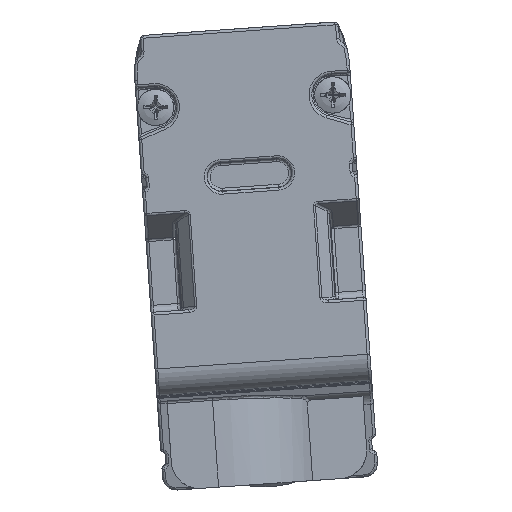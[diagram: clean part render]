
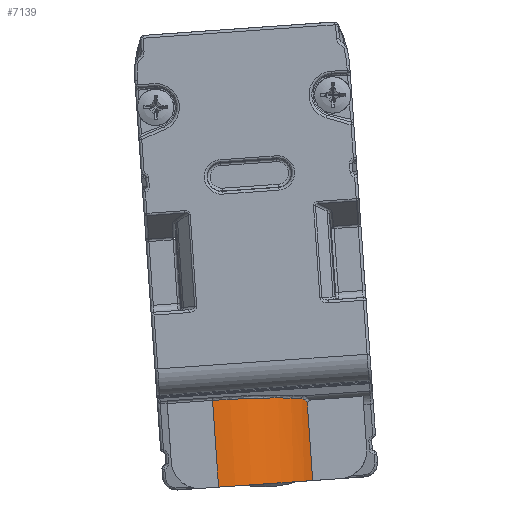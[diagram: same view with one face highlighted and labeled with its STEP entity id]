
A CAD part, front view. The second image highlights one B-rep face of the part: STEP entity #7139.
In plain terms, the highlighted cylindrical face has radius 7.5 mm (diameter 15 mm), a partial arc.
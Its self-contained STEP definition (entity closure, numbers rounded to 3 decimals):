
#417=ELLIPSE('',#24269,7.53,7.5);
#832=CYLINDRICAL_SURFACE('',#24271,7.5);
#1924=LINE('',#44813,#3582);
#1925=LINE('',#44826,#3583);
#3582=VECTOR('',#29564,1.);
#3583=VECTOR('',#29567,1.);
#5397=CIRCLE('',#24270,7.5);
#7139=ADVANCED_FACE('',(#8533),#832,.T.);
#8533=FACE_OUTER_BOUND('',#9662,.T.);
#9662=EDGE_LOOP('',(#14035,#14036,#14037,#14038,#14039));
#14035=ORIENTED_EDGE('',*,*,#20825,.T.);
#14036=ORIENTED_EDGE('',*,*,#20826,.T.);
#14037=ORIENTED_EDGE('',*,*,#20827,.T.);
#14038=ORIENTED_EDGE('',*,*,#20828,.T.);
#14039=ORIENTED_EDGE('',*,*,#20829,.F.);
#17437=VERTEX_POINT('',#44814);
#17438=VERTEX_POINT('',#44815);
#17439=VERTEX_POINT('',#44823);
#17440=VERTEX_POINT('',#44825);
#17441=VERTEX_POINT('',#44827);
#20825=EDGE_CURVE('',#17437,#17438,#1924,.T.);
#20826=EDGE_CURVE('',#17438,#17439,#22389,.T.);
#20827=EDGE_CURVE('',#17439,#17440,#417,.T.);
#20828=EDGE_CURVE('',#17440,#17441,#1925,.T.);
#20829=EDGE_CURVE('',#17437,#17441,#5397,.T.);
#22389=B_SPLINE_CURVE_WITH_KNOTS('',3,(#44816,#44817,#44818,#44819,#44820,
#44821,#44822),.UNSPECIFIED.,.F.,.F.,(4,3,4),(0.,0.485,1.),.UNSPECIFIED.);
#24269=AXIS2_PLACEMENT_3D('',#44824,#29565,#29566);
#24270=AXIS2_PLACEMENT_3D('',#44828,#29568,#29569);
#24271=AXIS2_PLACEMENT_3D('',#44829,#29570,#29571);
#29564=DIRECTION('',(-0.07,0.,0.998));
#29565=DIRECTION('',(0.069,-0.089,-0.994));
#29566=DIRECTION('',(0.006,0.996,-0.089));
#29567=DIRECTION('',(0.07,0.,-0.998));
#29568=DIRECTION('',(0.07,0.,-0.998));
#29569=DIRECTION('',(0.998,0.,0.07));
#29570=DIRECTION('',(0.07,0.,-0.998));
#29571=DIRECTION('',(0.,-1.,0.));
#44813=CARTESIAN_POINT('',(-40.701,-140.597,14.888));
#44814=CARTESIAN_POINT('',(-40.701,-140.597,14.888));
#44815=CARTESIAN_POINT('',(-41.088,-140.597,20.435));
#44816=CARTESIAN_POINT('',(-41.088,-140.597,20.435));
#44817=CARTESIAN_POINT('',(-41.139,-140.686,20.528));
#44818=CARTESIAN_POINT('',(-41.198,-140.793,20.603));
#44819=CARTESIAN_POINT('',(-41.263,-140.905,20.654));
#44820=CARTESIAN_POINT('',(-41.332,-141.024,20.708));
#44821=CARTESIAN_POINT('',(-41.408,-141.152,20.738));
#44822=CARTESIAN_POINT('',(-41.487,-141.278,20.743));
#44823=CARTESIAN_POINT('',(-41.487,-141.278,20.743));
#44824=CARTESIAN_POINT('',(-47.816,-137.318,19.944));
#44825=CARTESIAN_POINT('',(-47.863,-144.818,20.616));
#44826=CARTESIAN_POINT('',(-47.667,-144.818,17.815));
#44827=CARTESIAN_POINT('',(-47.43,-144.818,14.418));
#44828=CARTESIAN_POINT('',(-47.43,-137.318,14.418));
#44829=CARTESIAN_POINT('',(-52.434,-137.318,85.982));
